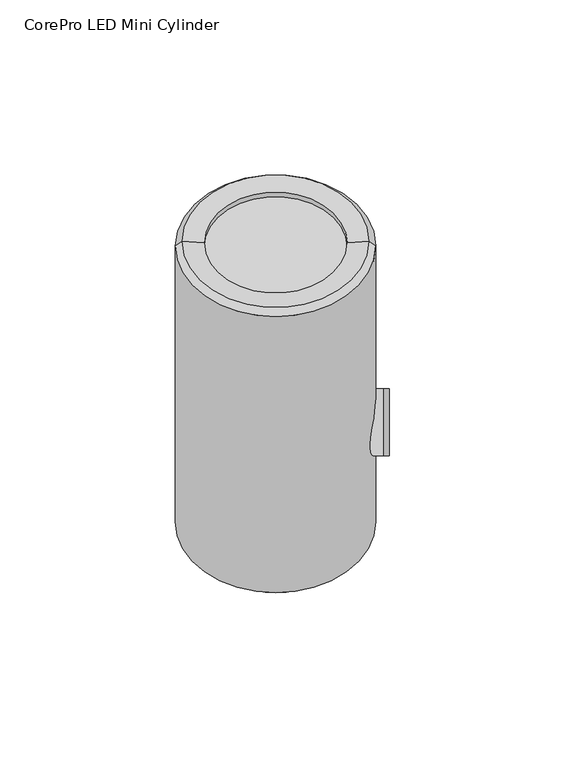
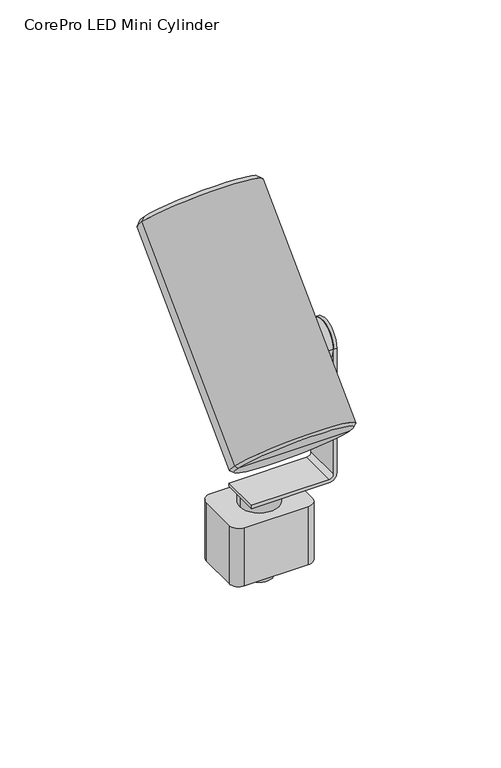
"""IFC4 building model written with IfcOpenShell, lengths in millimetres: light fixture geometry, Lighting-Track-Philips_Lightolier-CorePro_LED_Mini_Cylinder : CorePro LED Mini Cylinder."""

from ifc_helpers import new_model, si_unit, point, frame, frame_2d, origin, origin_with_axes, place, context, project, spatial, polyline, circle_curve, trimmed, segment, composite_curve, outline, extrude, source, transform, mapped, element, save
from ifc_brep_helpers import plane_surface, cylinder_surface, revolved_surface, advanced_brep


def corepro_led_mini_cylinder_4b529b81(model_context):
    return source(origin(), model_context, "Body", "SolidModel", [
        extrude(outline(composite_curve([segment(trimmed(circle_curve(frame_2d((0.0, 26.9875)), 26.9875), [point((0.0, 53.975))], [point((0.0, 0.0))], False, "CARTESIAN"), True, "CONTINUOUS"), segment(trimmed(circle_curve(frame_2d((0.0, 26.9875)), 26.9875), [point((0.0, 0.0))], [point((0.0, 53.975))], False, "CARTESIAN"), True, "CONTINUOUS")], self_intersect=False)), frame((26.9875, 23.1452931, 151.7327931), z_axis=(0.0, 0.7071067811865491, 0.707106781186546), x_axis=(0.0, 0.707106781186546, -0.7071067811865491)), (0.0, 0.0, 1.0), 1.5853915),
        advanced_brep(
        [(28.575, -53.712818, 74.874682), (27.3403712, -54.5858324, 74.0016676), (-27.3403712, -54.5858324, 74.0016676), (-28.575, -53.712818, 74.874682), (28.575, 24.9175917, 153.5050917), (-28.575, 24.9175917, 153.5050917), (26.7098206, 26.2364727, 154.8239727), (-26.7098206, 26.2364727, 154.8239727), (0.0, 17.2562166, 145.8437166), (20.3839843, 17.2562166, 145.8437166), (-20.3839843, 17.2562166, 145.8437166), (0.0, -54.5858324, 74.0016676), (20.3839843, 25.8451322, 154.4326322), (-20.3839843, 25.8451322, 154.4326322)],
        [
            (0, 1),
            (1, 2, circle_curve(frame((0.0, -54.5858324, 74.0016676), z_axis=(0.0, 0.7071067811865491, 0.707106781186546), x_axis=(-1.0, 0.0, 0.0)), 27.3403712)),
            (2, 3),
            (3, 0, circle_curve(frame((0.0, -53.712818, 74.874682), z_axis=(0.0, -0.7071067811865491, -0.707106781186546), x_axis=(-1.0, 0.0, 0.0)), 28.575)),
            (2, 1, circle_curve(frame((0.0, -54.5858324, 74.0016676), z_axis=(0.0, 0.7071067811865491, 0.707106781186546), x_axis=(-1.0, 0.0, 0.0)), 27.3403712)),
            (0, 3, circle_curve(frame((0.0, -53.712818, 74.874682), z_axis=(0.0, -0.7071067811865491, -0.707106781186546), x_axis=(-1.0, 0.0, 0.0)), 28.575)),
            (4, 0),
            (3, 5),
            (5, 4, circle_curve(frame((0.0, 24.9175917, 153.5050917), z_axis=(0.0, -0.7071067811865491, -0.707106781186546), x_axis=(-1.0, 0.0, 0.0)), 28.575)),
            (4, 5, circle_curve(frame((0.0, 24.9175917, 153.5050917), z_axis=(0.0, -0.7071067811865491, -0.707106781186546), x_axis=(-1.0, 0.0, 0.0)), 28.575)),
            (6, 4),
            (5, 7),
            (7, 6, circle_curve(frame((0.0, 26.2364727, 154.8239727), z_axis=(0.0, -0.7071067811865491, -0.707106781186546), x_axis=(-1.0, 0.0, 0.0)), 26.7098206)),
            (6, 7, circle_curve(frame((0.0, 26.2364727, 154.8239727), z_axis=(0.0, -0.7071067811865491, -0.707106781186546), x_axis=(-1.0, 0.0, 0.0)), 26.7098206)),
            (8, 9),
            (9, 10, circle_curve(frame((0.0, 17.2562166, 145.8437166), z_axis=(0.0, 0.7071067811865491, 0.707106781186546), x_axis=(-1.0, 0.0, 0.0)), 20.3839843)),
            (10, 8),
            (10, 9, circle_curve(frame((0.0, 17.2562166, 145.8437166), z_axis=(0.0, 0.7071067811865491, 0.707106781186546), x_axis=(-1.0, 0.0, 0.0)), 20.3839843)),
            (1, 11),
            (11, 2),
            (12, 6),
            (7, 13),
            (13, 12, circle_curve(frame((0.0, 25.8451322, 154.4326322), z_axis=(0.0, -0.7071067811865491, -0.707106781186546), x_axis=(-1.0, 0.0, 0.0)), 20.3839843)),
            (12, 13, circle_curve(frame((0.0, 25.8451322, 154.4326322), z_axis=(0.0, -0.7071067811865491, -0.707106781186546), x_axis=(-1.0, 0.0, 0.0)), 20.3839843)),
            (9, 12),
            (13, 10),
        ],
        [
            revolved_surface(polyline([(-27.3403712, -54.5858324, 74.0016676), (-28.575, -53.712818, 74.874682)]), (0.0, 26.2364727, 154.8239727), (0.0, 0.7071067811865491, 0.707106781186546)),
            cylinder_surface(frame((0.0, 26.2364727, 154.8239727), z_axis=(0.0, 0.7071067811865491, 0.707106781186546), x_axis=(-1.0, 0.0, 0.0)), 28.575),
            revolved_surface(polyline([(-28.575, 24.9175917, 153.5050917), (-26.7098206, 26.2364727, 154.8239727)]), (0.0, 26.2364727, 154.8239727), (0.0, 0.7071067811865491, 0.707106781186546)),
            plane_surface(frame((0.0, 17.2562166, 145.8437166), z_axis=(0.0, 0.7071067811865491, 0.707106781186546), x_axis=(-1.0, 0.0, 0.0))),
            plane_surface(frame((0.0, -54.5858324, 74.0016676), z_axis=(0.0, -0.7071067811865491, -0.707106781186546), x_axis=(-1.0, 0.0, 0.0))),
            revolved_surface(polyline([(-26.7098206, 26.2364727, 154.8239727), (-20.3839843, 25.8451322, 154.4326322)]), (0.0, 26.2364727, 154.8239727), (0.0, 0.7071067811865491, 0.707106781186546)),
            revolved_surface(polyline([(-20.3839843, 25.84513219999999, 154.4326322), (-20.3839843, 17.256216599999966, 145.84371660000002)]), (0.0, 26.2364727, 154.8239727), (0.0, 0.7071067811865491, 0.707106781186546)),
        ],
        [
            (0, [[1, 2, 3, 4]]),
            (0, [[-3, 5, -1, 6]]),
            (1, [[7, -4, 8, 9]]),
            (1, [[-8, -6, -7, 10]]),
            (2, [[11, -9, 12, 13]]),
            (2, [[-12, -10, -11, 14]]),
            (3, [[15, 16, 17]]),
            (3, [[-17, 18, -15]]),
            (4, [[19, 20, -2]]),
            (4, [[-20, -19, -5]]),
            (5, [[21, -13, 22, 23]]),
            (5, [[-22, -14, -21, 24]]),
            (6, [[25, -23, 26, -16]]),
            (6, [[-26, -24, -25, -18]]),
        ],
    ),
        advanced_brep(
        [(28.6357268, -15.875, 36.490579), (30.8517004, -15.875, 38.7065526), (30.8517004, -15.875, 103.1875), (32.4392004, -15.875, 103.1875), (32.4392004, -15.875, 38.7065526), (28.6357268, -15.875, 34.903079), (-9.4143115, -15.875, 34.903079), (-9.4143115, -15.875, 36.490579), (28.6357268, -34.925, 36.490579), (-9.4143115, -34.925, 36.490579), (-9.4143115, -34.925, 34.903079), (28.6357268, -34.925, 34.903079), (32.4392004, -34.925, 38.7065526), (32.4392004, -34.925, 103.1875), (30.8517004, -34.925, 103.1875), (30.8517004, -34.925, 38.7065526)],
        [
            (0, 1, circle_curve(frame((28.6357268, -15.875, 38.7065526), z_axis=(0.0, -1.0, 0.0), x_axis=(1.0, 0.0, 0.0)), 2.2159736)),
            (1, 2),
            (2, 3),
            (3, 4),
            (4, 5, circle_curve(frame((28.6357268, -15.875, 38.7065526), z_axis=(0.0, 1.0, 0.0), x_axis=(1.0, 0.0, 0.0)), 3.8034736)),
            (5, 6),
            (6, 7),
            (7, 0),
            (8, 9),
            (9, 10),
            (10, 11),
            (11, 12, circle_curve(frame((28.6357268, -34.925, 38.7065526), z_axis=(0.0, -1.0, 0.0), x_axis=(1.0, 0.0, 0.0)), 3.8034736)),
            (12, 13),
            (13, 14),
            (14, 15),
            (15, 8, circle_curve(frame((28.6357268, -34.925, 38.7065526), z_axis=(0.0, 1.0, 0.0), x_axis=(1.0, 0.0, 0.0)), 2.2159736)),
            (7, 9),
            (8, 0),
            (6, 10),
            (5, 11),
            (3, 13, circle_curve(frame((32.4392004, -25.4, 103.1875), z_axis=(1.0, 0.0, 0.0), x_axis=(0.0, 0.0, 1.0)), 9.525)),
            (12, 4),
            (14, 2, circle_curve(frame((30.8517004, -25.4, 103.1875), z_axis=(-1.0, 0.0, 0.0), x_axis=(0.0, 0.0, 1.0)), 9.525)),
            (1, 15),
        ],
        [
            plane_surface(frame((-9.4143115, -15.875, 36.490579), z_axis=(0.0, 1.0, 0.0), x_axis=(-1.0, 0.0, 0.0))),
            plane_surface(frame((-9.4143115, -34.925, 36.490579), z_axis=(0.0, -1.0, 0.0), x_axis=(1.0, 0.0, 0.0))),
            plane_surface(frame((28.6357268, -15.875, 36.490579), z_axis=(0.0, 0.0, 1.0), x_axis=(0.0, -1.0, 0.0))),
            plane_surface(frame((-9.4143115, -15.875, 36.490579), z_axis=(-1.0, 0.0, 0.0), x_axis=(0.0, -1.0, 0.0))),
            plane_surface(frame((-9.4143115, -15.875, 34.903079), z_axis=(0.0, 0.0, -1.0), x_axis=(0.0, -1.0, 0.0))),
            plane_surface(frame((32.4392004, -15.875, 38.7065526), z_axis=(1.0, 0.0, 0.0), x_axis=(0.0, -1.0, 0.0))),
            plane_surface(frame((30.8517004, -15.875, 113.6925923), z_axis=(-1.0, 0.0, 0.0), x_axis=(0.0, -1.0, 0.0))),
            cylinder_surface(frame((28.6357268, -34.925, 38.7065526), z_axis=(0.0, 1.0, 0.0), x_axis=(1.0, 0.0, 0.0)), 3.8034736),
            revolved_surface(polyline([(30.8517004, -34.925, 38.7065526), (30.8517004, -15.875, 38.7065526)]), (28.6357268, -34.925, 38.7065526), (0.0, -1.0, 0.0)),
            cylinder_surface(frame((13.7009915, -25.4, 103.1875), z_axis=(-1.0, 0.0, 0.0), x_axis=(0.0, 0.0, 1.0)), 9.525),
        ],
        [
            (0, [[1, 2, 3, 4, 5, 6, 7, 8]]),
            (1, [[9, 10, 11, 12, 13, 14, 15, 16]]),
            (2, [[17, -9, 18, -8]]),
            (3, [[19, -10, -17, -7]]),
            (4, [[20, -11, -19, -6]]),
            (5, [[-4, 21, -13, 22]]),
            (6, [[-15, 23, -2, 24]]),
            (7, [[-22, -12, -20, -5]]),
            (8, [[-18, -16, -24, -1]]),
            (9, [[-23, -14, -21, -3]]),
        ],
    ),
        extrude(outline(composite_curve([segment(trimmed(circle_curve(frame_2d((0.0, -25.4)), 9.525), [point((-9.525, -25.4))], [point((9.525, -25.4))], False, "CARTESIAN"), True, "CONTINUOUS"), segment(trimmed(circle_curve(frame_2d((0.0, -25.4)), 9.525), [point((9.525, -25.4))], [point((-9.525, -25.4))], False, "CARTESIAN"), True, "CONTINUOUS")], self_intersect=False)), frame((0.0, 0.0, 30.1625), z_axis=(0.0, 0.0, 1.0), x_axis=(1.0, 0.0, 0.0)), (0.0, 0.0, 1.0), 4.740579),
        extrude(outline(composite_curve([segment(trimmed(circle_curve(frame_2d((-25.4, 103.1875)), 9.525), [point((-15.875, 103.1875))], [point((-34.925, 103.1875))], False, "CARTESIAN"), True, "CONTINUOUS"), segment(trimmed(circle_curve(frame_2d((-25.4, 103.1875)), 9.525), [point((-34.925, 103.1875))], [point((-15.875, 103.1875))], False, "CARTESIAN"), True, "CONTINUOUS")], self_intersect=False)), frame((13.7009915, 0.0, 0.0), z_axis=(1.0, 0.0, 0.0), x_axis=(0.0, 1.0, 0.0)), (0.0, 0.0, 1.0), 17.1507089),
        extrude(outline(composite_curve([segment(trimmed(circle_curve(frame_2d((0.0, -25.4)), 6.35), [point((-6.35, -25.4))], [point((6.35, -25.4))], False, "CARTESIAN"), True, "CONTINUOUS"), segment(trimmed(circle_curve(frame_2d((0.0, -25.4)), 6.35), [point((6.35, -25.4))], [point((-6.35, -25.4))], False, "CARTESIAN"), True, "CONTINUOUS")], self_intersect=False)), frame((0.0, 0.0, -7.8870636), z_axis=(0.0, 0.0, 1.0), x_axis=(1.0, 0.0, 0.0)), (0.0, 0.0, 1.0), 7.8870636),
        extrude(outline(composite_curve([segment(polyline([(15.4970185, -39.8159456), (-15.4970185, -39.8159456)]), True, "CONTINUOUS"), segment(trimmed(circle_curve(frame_2d((-15.4970185, -34.925)), 4.8909456), [point((-15.4970185, -39.8159456))], [point((-20.3879641, -34.925))], False, "CARTESIAN"), True, "CONTINUOUS"), segment(polyline([(-20.3879641, -34.925), (-20.3879641, -15.875)]), True, "CONTINUOUS"), segment(trimmed(circle_curve(frame_2d((-15.4970185, -15.875)), 4.8909456), [point((-20.3879641, -15.875))], [point((-15.4970185, -10.9840544))], False, "CARTESIAN"), True, "CONTINUOUS"), segment(polyline([(-15.4970185, -10.9840544), (15.4970185, -10.9840544)]), True, "CONTINUOUS"), segment(trimmed(circle_curve(frame_2d((15.4970185, -15.875)), 4.8909456), [point((15.4970185, -10.9840544))], [point((20.3879641, -15.875))], False, "CARTESIAN"), True, "CONTINUOUS"), segment(polyline([(20.3879641, -15.875), (20.3879641, -34.925)]), True, "CONTINUOUS"), segment(trimmed(circle_curve(frame_2d((15.4970185, -34.925)), 4.8909456), [point((20.3879641, -34.925))], [point((15.4970185, -39.8159456))], False, "CARTESIAN"), True, "CONTINUOUS")], self_intersect=False)), origin_with_axes(), (0.0, 0.0, 1.0), 30.1625),
    ])


if __name__ == "__main__":
    model = new_model("IFC4")
    model_context = context("Model", 3, world=origin())
    ifc_project = project(units=[si_unit("LENGTHUNIT", "METRE", prefix="MILLI")], contexts=[model_context])
    site = spatial("IfcSite", under=ifc_project)
    building = spatial("IfcBuilding", under=site)
    placement = place(None, origin())
    corepro_led_mini_cylinder_shape = corepro_led_mini_cylinder_4b529b81(model_context)
    element("IfcLightFixture", 1, ObjectType="Lighting-Track-Philips_Lightolier-CorePro_LED_Mini_Cylinder : CorePro LED Mini Cylinder", at=placement, inside=building, context=model_context, shape_type="MappedRepresentation", body=[
        mapped(corepro_led_mini_cylinder_shape, transform((0.0, 0.0, 0.0), x_axis=(1.0, 0.0, 0.0), y_axis=(0.0, 1.0, 0.0), z_axis=(0.0, 0.0, 1.0))),
    ])
    save(model, "model.ifc")
